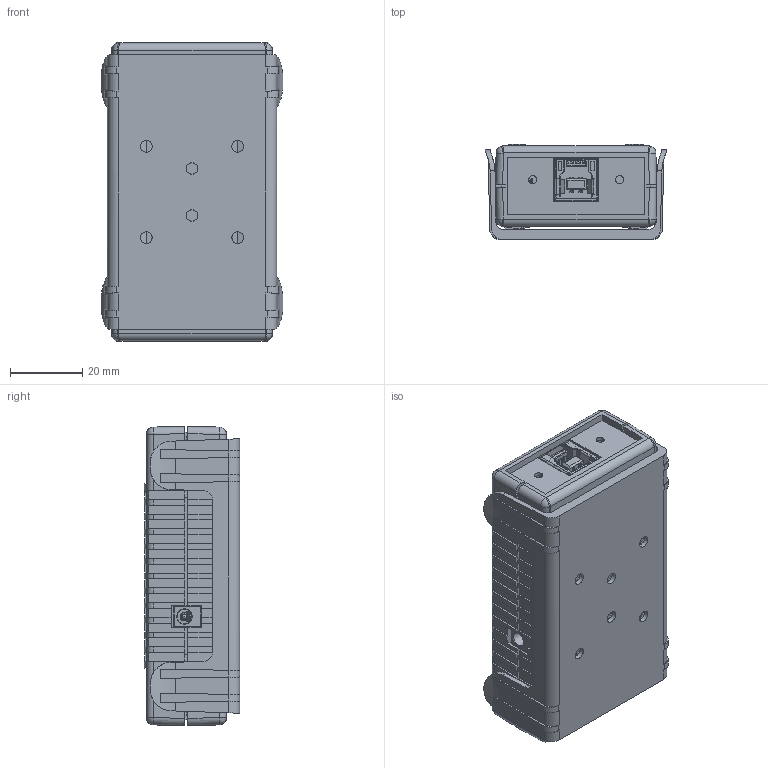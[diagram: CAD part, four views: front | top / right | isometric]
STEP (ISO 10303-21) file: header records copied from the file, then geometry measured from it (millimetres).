
FILE_DESCRIPTION(/* description */ (''),/* implementation_level */ '2;1');
FILE_NAME(/* name */ '/Users/leo/Desktop/Coolgear May/CG-USB30ISO/CG-USB30ISO Model3D LPV1.step',/* time_stamp */ '2021-05-20T15:14:31-04:00',/* author */ (''),/* organization */ (''),/* preprocessor_version */ 'ST-DEVELOPER v18.1',/* originating_system */ 'Autodesk Translation Framework v10.6.0.1341',/* authorisation */ '');
FILE_SCHEMA (('AUTOMOTIVE_DESIGN { 1 0 10303 214 3 1 1 }'));
Products named in the file (41): CG-USB30ISO; Component1; Component3; Component4; Component5; Port USB 3.2Gen1 v1; Housing1; Housing2; pin1; shielding; pin2; shielding_2; Housing3; pin3; pin4; pin5; pin3_mir2; pin4_mir2; Connector Volts SMALL v2; Component1 (1); Component2 (1); Component3 (1); Component4 (1); 3mm_LED v4; 3mm_LED; led_energy (1); led_energy; led_pin.1.1.1 (1); led_pin.1.1.1; led_pin.2.1 (1); led_pin.2.1; Component35; USB Type A Single Blue v1; Download_STP_692121030100_(rev1); housing1_1; pin1 (1); housing2_1; pin2 (1); pin; shielding (1)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
Assembly tree (48 placements, depth 5):
  CG-USB30ISO
    Component1
    Component3
    Component4
    Component5
    Port USB 3.2Gen1 v1
      Housing1
      Housing2
      pin1  x2
      shielding
      pin2  x2
      shielding_2
      Housing3
      pin3
      pin4
      pin5
      pin3_mir2
      pin4_mir2
    Connector Volts SMALL v2
      Component1 (1)
      Component2 (1)
      Component3 (1)
      Component4 (1)
    3mm_LED v4
      3mm_LED
        led_energy (1)
          led_energy
        led_pin.1.1.1 (1)
          led_pin.1.1.1
        led_pin.2.1 (1)
          led_pin.2.1
    Component35
    USB Type A Single Blue v1
      Download_STP_692121030100_(rev1)
        housing1_1
        pin1 (1)  x5
        housing2_1
        pin2 (1)  x2
        pin  x2
        shielding (1)
    Component45
Bounding box: 50.24 x 26.3 x 82.53 mm (x, y, z)
Volume: 41780 mm3; surface area: 49156 mm2
Topology: 2 solids, 20 shells, 3026 faces, 8702 edges, 5641 vertices
Faces by surface type: plane 2449, cylinder 533, bspline 21, sphere 13, cone 6, torus 4
Full cylindrical faces by diameter (mm): 1.119 x1, 1.44 x1, 2.271 x4, 2.998 x1, 3.2 x6, 3.21 x1, 3.643 x1, 4 x1, 6.4 x6
Entity records: 100512 total; most frequent: CARTESIAN_POINT 18739, ORIENTED_EDGE 17398, DIRECTION 16137, EDGE_CURVE 8699, LINE 7285, VECTOR 7285, VERTEX_POINT 5641, AXIS2_PLACEMENT_3D 4426
